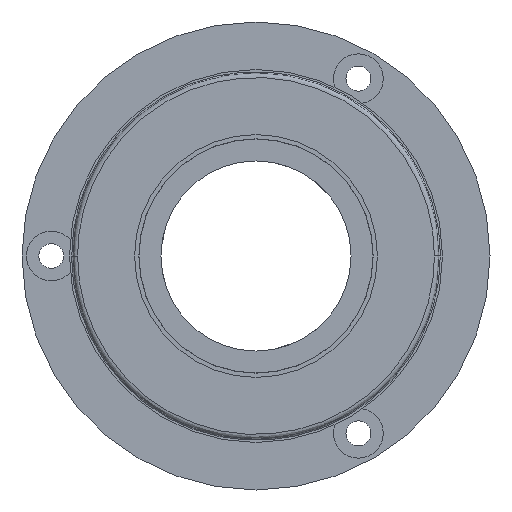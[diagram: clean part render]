
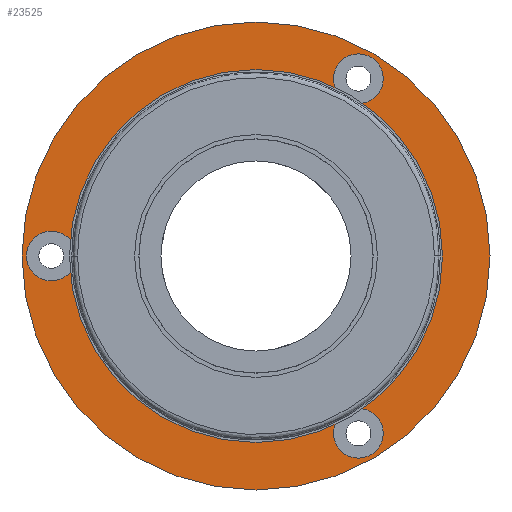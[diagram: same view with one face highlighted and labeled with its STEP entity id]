
A CAD part, left-side view. The second image highlights one B-rep face of the part: STEP entity #23525.
In plain terms, the highlighted planar face has unit normal (-1, 0, 0).
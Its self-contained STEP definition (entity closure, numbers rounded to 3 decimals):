
#64 = VERTEX_POINT ( 'NONE', #5182 ) ;
#71 = ORIENTED_EDGE ( 'NONE', *, *, #27137, .T. ) ;
#989 = PLANE ( 'NONE',  #46953 ) ;
#1127 = AXIS2_PLACEMENT_3D ( 'NONE', #53530, #28285, #32521 ) ;
#2960 = DIRECTION ( 'NONE',  ( 1., 0., 0. ) ) ;
#3028 = ORIENTED_EDGE ( 'NONE', *, *, #20392, .T. ) ;
#3140 = CARTESIAN_POINT ( 'NONE',  ( 2.8, -7., -12.124 ) ) ;
#3265 = DIRECTION ( 'NONE',  ( 0., -1., 0. ) ) ;
#4231 = CARTESIAN_POINT ( 'NONE',  ( 2.8, -16., 0. ) ) ;
#5182 = CARTESIAN_POINT ( 'NONE',  ( 2.8, -8.7, -12.124 ) ) ;
#5548 = EDGE_LOOP ( 'NONE', ( #30758, #37702 ) ) ;
#5586 = CARTESIAN_POINT ( 'NONE',  ( 2.8, 0., 0. ) ) ;
#5956 = CARTESIAN_POINT ( 'NONE',  ( 2.8, -8.7, 12.124 ) ) ;
#6208 = VERTEX_POINT ( 'NONE', #53208 ) ;
#6392 = AXIS2_PLACEMENT_3D ( 'NONE', #5586, #36532, #39487 ) ;
#6501 = FACE_BOUND ( 'NONE', #37156, .T. ) ;
#8673 = CIRCLE ( 'NONE', #37509, 1.7 ) ;
#9345 = CIRCLE ( 'NONE', #6392, 10. ) ;
#9815 = DIRECTION ( 'NONE',  ( 0., 1., 0. ) ) ;
#9991 = DIRECTION ( 'NONE',  ( -1., 0., 0. ) ) ;
#10681 = CARTESIAN_POINT ( 'NONE',  ( 2.8, -5.3, 12.124 ) ) ;
#11110 = FACE_BOUND ( 'NONE', #51690, .T. ) ;
#11233 = DIRECTION ( 'NONE',  ( 1., 0., 0. ) ) ;
#11773 = DIRECTION ( 'NONE',  ( 0., 1., 0. ) ) ;
#11852 = DIRECTION ( 'NONE',  ( 1., 0., 0. ) ) ;
#12122 = EDGE_LOOP ( 'NONE', ( #22518, #22241 ) ) ;
#13988 = AXIS2_PLACEMENT_3D ( 'NONE', #54118, #16496, #28869 ) ;
#14062 = CARTESIAN_POINT ( 'NONE',  ( 2.8, 14., 0. ) ) ;
#15246 = AXIS2_PLACEMENT_3D ( 'NONE', #41158, #11852, #40971 ) ;
#15268 = VERTEX_POINT ( 'NONE', #30526 ) ;
#15993 = VERTEX_POINT ( 'NONE', #26140 ) ;
#16496 = DIRECTION ( 'NONE',  ( -1., 0., 0. ) ) ;
#16786 = CIRCLE ( 'NONE', #32480, 16. ) ;
#16860 = ORIENTED_EDGE ( 'NONE', *, *, #30470, .T. ) ;
#17573 = DIRECTION ( 'NONE',  ( 1., 0., 0. ) ) ;
#17605 = EDGE_CURVE ( 'NONE', #20552, #15993, #39821, .T. ) ;
#17891 = CARTESIAN_POINT ( 'NONE',  ( 2.8, 10., 0. ) ) ;
#18082 = CARTESIAN_POINT ( 'NONE',  ( 2.8, 0., 0. ) ) ;
#18929 = CARTESIAN_POINT ( 'NONE',  ( 2.8, 16., 0. ) ) ;
#19823 = DIRECTION ( 'NONE',  ( 1., 0., 0. ) ) ;
#20392 = EDGE_CURVE ( 'NONE', #15993, #20552, #9345, .T. ) ;
#20552 = VERTEX_POINT ( 'NONE', #47787 ) ;
#20967 = EDGE_CURVE ( 'NONE', #50589, #38107, #28405, .T. ) ;
#21228 = CIRCLE ( 'NONE', #1127, 1.7 ) ;
#22241 = ORIENTED_EDGE ( 'NONE', *, *, #20967, .T. ) ;
#22518 = ORIENTED_EDGE ( 'NONE', *, *, #30373, .T. ) ;
#23525 = ADVANCED_FACE ( 'NONE', ( #51381, #6501, #23625, #11110, #30264 ), #989, .T. ) ;
#23625 = FACE_BOUND ( 'NONE', #12122, .T. ) ;
#24024 = CIRCLE ( 'NONE', #38895, 1.7 ) ;
#24106 = DIRECTION ( 'NONE',  ( 1., 0., 0. ) ) ;
#24650 = CIRCLE ( 'NONE', #13988, 16. ) ;
#24720 = AXIS2_PLACEMENT_3D ( 'NONE', #32553, #19823, #3265 ) ;
#25787 = AXIS2_PLACEMENT_3D ( 'NONE', #27979, #24106, #11773 ) ;
#26140 = CARTESIAN_POINT ( 'NONE',  ( 2.8, -10., 0. ) ) ;
#26220 = EDGE_LOOP ( 'NONE', ( #71, #39627 ) ) ;
#27137 = EDGE_CURVE ( 'NONE', #29089, #39348, #24650, .T. ) ;
#27979 = CARTESIAN_POINT ( 'NONE',  ( 2.8, 0., 0. ) ) ;
#28010 = DIRECTION ( 'NONE',  ( 0., -1., 0. ) ) ;
#28285 = DIRECTION ( 'NONE',  ( 1., 0., 0. ) ) ;
#28405 = CIRCLE ( 'NONE', #15246, 1.7 ) ;
#28560 = DIRECTION ( 'NONE',  ( 0., -1., 0. ) ) ;
#28869 = DIRECTION ( 'NONE',  ( 0., 1., 0. ) ) ;
#29089 = VERTEX_POINT ( 'NONE', #18929 ) ;
#30085 = EDGE_CURVE ( 'NONE', #39348, #29089, #16786, .T. ) ;
#30264 = FACE_BOUND ( 'NONE', #5548, .T. ) ;
#30373 = EDGE_CURVE ( 'NONE', #38107, #50589, #24024, .T. ) ;
#30470 = EDGE_CURVE ( 'NONE', #64, #39903, #48431, .T. ) ;
#30526 = CARTESIAN_POINT ( 'NONE',  ( 2.8, 12.3, 0. ) ) ;
#30758 = ORIENTED_EDGE ( 'NONE', *, *, #32923, .T. ) ;
#31199 = ORIENTED_EDGE ( 'NONE', *, *, #17605, .T. ) ;
#32341 = EDGE_CURVE ( 'NONE', #6208, #15268, #21228, .T. ) ;
#32480 = AXIS2_PLACEMENT_3D ( 'NONE', #18082, #9991, #9815 ) ;
#32521 = DIRECTION ( 'NONE',  ( 0., -1., 0. ) ) ;
#32553 = CARTESIAN_POINT ( 'NONE',  ( 2.8, -7., -12.124 ) ) ;
#32923 = EDGE_CURVE ( 'NONE', #15268, #6208, #8673, .T. ) ;
#36532 = DIRECTION ( 'NONE',  ( 1., 0., 0. ) ) ;
#36670 = ORIENTED_EDGE ( 'NONE', *, *, #43429, .T. ) ;
#37156 = EDGE_LOOP ( 'NONE', ( #31199, #3028 ) ) ;
#37509 = AXIS2_PLACEMENT_3D ( 'NONE', #14062, #17573, #42864 ) ;
#37702 = ORIENTED_EDGE ( 'NONE', *, *, #32341, .T. ) ;
#38107 = VERTEX_POINT ( 'NONE', #5956 ) ;
#38397 = CIRCLE ( 'NONE', #24720, 1.7 ) ;
#38895 = AXIS2_PLACEMENT_3D ( 'NONE', #49383, #11233, #28010 ) ;
#39348 = VERTEX_POINT ( 'NONE', #4231 ) ;
#39487 = DIRECTION ( 'NONE',  ( 0., 1., 0. ) ) ;
#39627 = ORIENTED_EDGE ( 'NONE', *, *, #30085, .T. ) ;
#39821 = CIRCLE ( 'NONE', #25787, 10. ) ;
#39903 = VERTEX_POINT ( 'NONE', #45283 ) ;
#40971 = DIRECTION ( 'NONE',  ( 0., -1., 0. ) ) ;
#41158 = CARTESIAN_POINT ( 'NONE',  ( 2.8, -7., 12.124 ) ) ;
#42445 = DIRECTION ( 'NONE',  ( 0., -1., 0. ) ) ;
#42864 = DIRECTION ( 'NONE',  ( 0., -1., 0. ) ) ;
#43001 = DIRECTION ( 'NONE',  ( -1., 0., 0. ) ) ;
#43429 = EDGE_CURVE ( 'NONE', #39903, #64, #38397, .T. ) ;
#45283 = CARTESIAN_POINT ( 'NONE',  ( 2.8, -5.3, -12.124 ) ) ;
#46953 = AXIS2_PLACEMENT_3D ( 'NONE', #17891, #43001, #42445 ) ;
#47787 = CARTESIAN_POINT ( 'NONE',  ( 2.8, 10., 0. ) ) ;
#48431 = CIRCLE ( 'NONE', #51239, 1.7 ) ;
#49383 = CARTESIAN_POINT ( 'NONE',  ( 2.8, -7., 12.124 ) ) ;
#50589 = VERTEX_POINT ( 'NONE', #10681 ) ;
#51239 = AXIS2_PLACEMENT_3D ( 'NONE', #3140, #2960, #28560 ) ;
#51381 = FACE_OUTER_BOUND ( 'NONE', #26220, .T. ) ;
#51690 = EDGE_LOOP ( 'NONE', ( #16860, #36670 ) ) ;
#53208 = CARTESIAN_POINT ( 'NONE',  ( 2.8, 15.7, 0. ) ) ;
#53530 = CARTESIAN_POINT ( 'NONE',  ( 2.8, 14., 0. ) ) ;
#54118 = CARTESIAN_POINT ( 'NONE',  ( 2.8, 0., 0. ) ) ;
